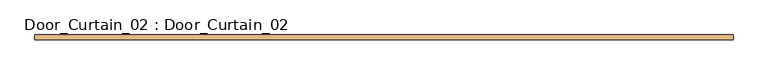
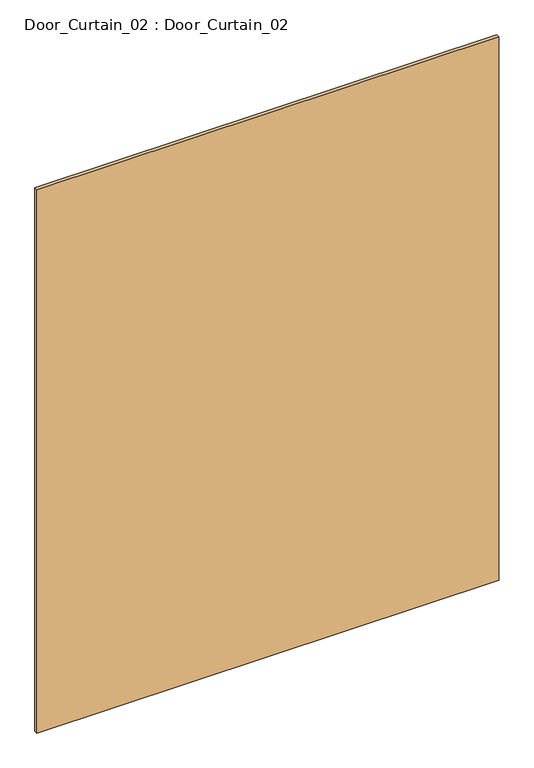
"""IFC4 building model written with IfcOpenShell, lengths in millimetres: door geometry, Door_Curtain_02 : Door_Curtain_02."""

from ifc_helpers import new_model, si_unit, origin, origin_with_axes, place, context, project, spatial, polyline, outline, extrude, source, transform, mapped, element, save


def door_curtain_02_door_curtain_02_4380cbc4(model_context):
    return source(origin(), model_context, "Body", "SweptSolid", [
        extrude(outline(polyline([(890.0, -5.0), (-890.0, -5.0), (-890.0, 7.7), (890.0, 7.7), (890.0, -5.0)])), origin_with_axes(), (0.0, 0.0, 1.0), 2213.5608581),
    ])


if __name__ == "__main__":
    model = new_model("IFC4")
    model_context = context("Model", 3, world=origin())
    ifc_project = project(units=[si_unit("LENGTHUNIT", "METRE", prefix="MILLI")], contexts=[model_context])
    site = spatial("IfcSite", under=ifc_project)
    building = spatial("IfcBuilding", under=site)
    placement = place(None, origin())
    door_curtain_02_door_curtain_02_shape = door_curtain_02_door_curtain_02_4380cbc4(model_context)
    element("IfcDoor", 1, ObjectType="Door_Curtain_02 : Door_Curtain_02", at=placement, inside=building, context=model_context, shape_type="MappedRepresentation", body=[
        mapped(door_curtain_02_door_curtain_02_shape, transform((0.0, 0.0, 0.0), x_axis=(1.0, 0.0, 0.0), y_axis=(0.0, 1.0, 0.0), z_axis=(0.0, 0.0, 1.0))),
    ])
    save(model, "model.ifc")
